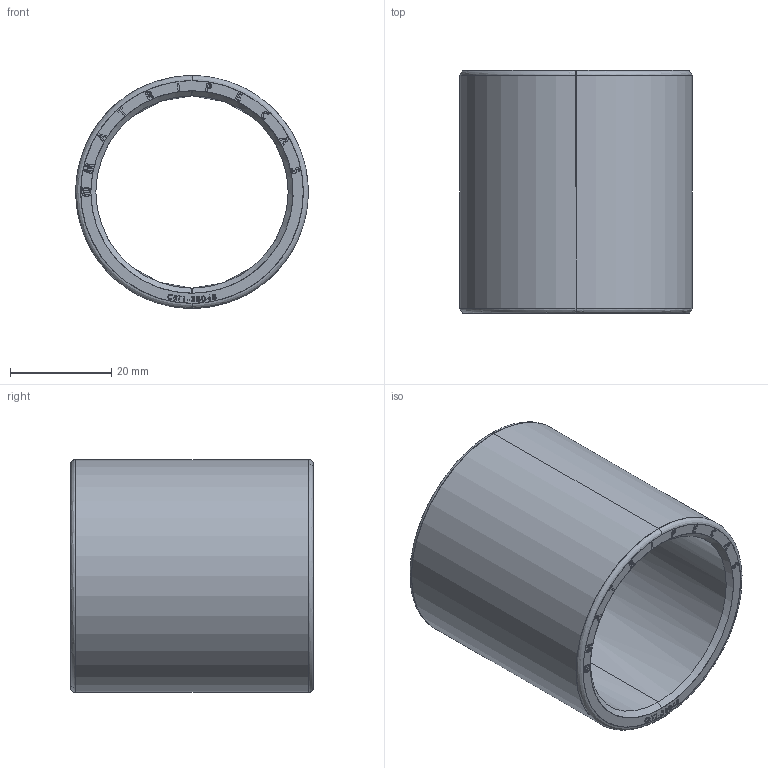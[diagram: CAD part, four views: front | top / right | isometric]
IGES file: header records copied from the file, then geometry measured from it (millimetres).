
Start section: SolidWorks IGES file using analytic representation for surfaces
Global section: file name: D:\Cleonir_arquivos\MT_15_07\Colar De Esferas Tipo 1\CET1-38048.igs; native system: SolidWorks 2013; preprocessor: SolidWorks 2013; author: Cleonir; date: 130728.192555; units: millimetre
Bounding box: 46 x 48 x 46 mm (x, y, z)
Surface area: 13530 mm2 (no closed solid volume)
Topology: 0 solids, 0 shells, 318 faces, 3741 edges, 3741 vertices
Faces by surface type: bspline 295, revolution 23
